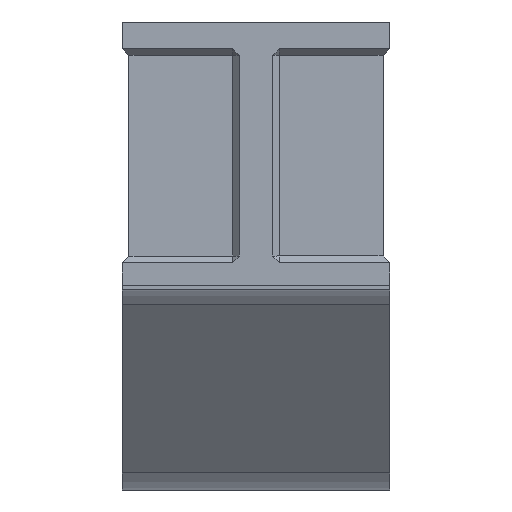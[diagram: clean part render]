
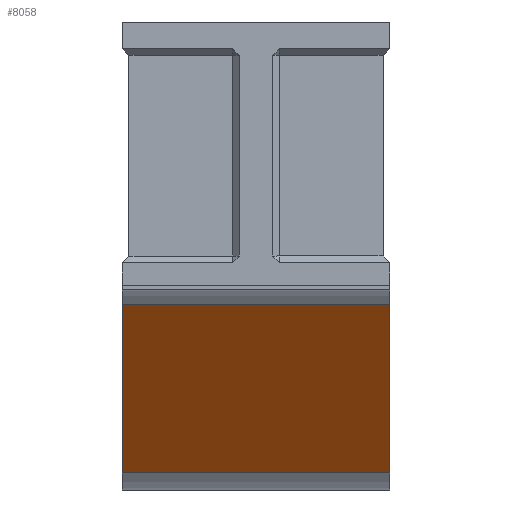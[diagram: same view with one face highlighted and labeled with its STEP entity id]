
A CAD part, left-side view. The second image highlights one B-rep face of the part: STEP entity #8058.
In plain terms, the highlighted planar face has unit normal (-0.351, 0, -0.936).
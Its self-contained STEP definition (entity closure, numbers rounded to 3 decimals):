
#7604=CARTESIAN_POINT('',(-337.584,-100.,-227.266));
#7605=VERTEX_POINT('',#7604);
#7606=CARTESIAN_POINT('',(-673.065,-100.,-101.461));
#7607=VERTEX_POINT('',#7606);
#7608=CARTESIAN_POINT('',(-337.584,-100.,-227.266));
#7609=DIRECTION('',(-0.936,0.,0.351));
#7610=VECTOR('',#7609,358.293);
#7611=LINE('',#7608,#7610);
#7612=EDGE_CURVE('',#7605,#7607,#7611,.T.);
#7878=CARTESIAN_POINT('',(-337.584,100.,-227.266));
#7879=VERTEX_POINT('',#7878);
#7887=CARTESIAN_POINT('',(-673.065,100.,-101.461));
#7888=VERTEX_POINT('',#7887);
#7889=CARTESIAN_POINT('',(-337.584,100.,-227.266));
#7890=DIRECTION('',(-0.936,0.0,0.351));
#7891=VECTOR('',#7890,358.293);
#7892=LINE('',#7889,#7891);
#7893=EDGE_CURVE('',#7888,#7879,#7892,.F.);
#8026=CARTESIAN_POINT('',(-337.584,-100.,-227.266));
#8027=DIRECTION('',(0.0,1.0,0.0));
#8028=VECTOR('',#8027,200.0);
#8029=LINE('',#8026,#8028);
#8030=EDGE_CURVE('',#7605,#7879,#8029,.T.);
#8042=CARTESIAN_POINT('',(-337.584,0.,-227.266));
#8043=DIRECTION('',(-0.351,0.,-0.936));
#8044=DIRECTION('',(-0.936,0.0,0.351));
#8045=AXIS2_PLACEMENT_3D('',#8042,#8043,#8044);
#8046=PLANE('',#8045);
#8047=ORIENTED_EDGE('',*,*,#8030,.F.);
#8048=ORIENTED_EDGE('',*,*,#7612,.T.);
#8049=CARTESIAN_POINT('',(-673.065,100.,-101.461));
#8050=DIRECTION('',(0.0,-1.0,0.0));
#8051=VECTOR('',#8050,200.0);
#8052=LINE('',#8049,#8051);
#8053=EDGE_CURVE('',#7888,#7607,#8052,.T.);
#8054=ORIENTED_EDGE('',*,*,#8053,.F.);
#8055=ORIENTED_EDGE('',*,*,#7893,.T.);
#8056=EDGE_LOOP('',(#8047,#8048,#8054,#8055));
#8057=FACE_OUTER_BOUND('',#8056,.T.);
#8058=ADVANCED_FACE('',(#8057),#8046,.T.);
